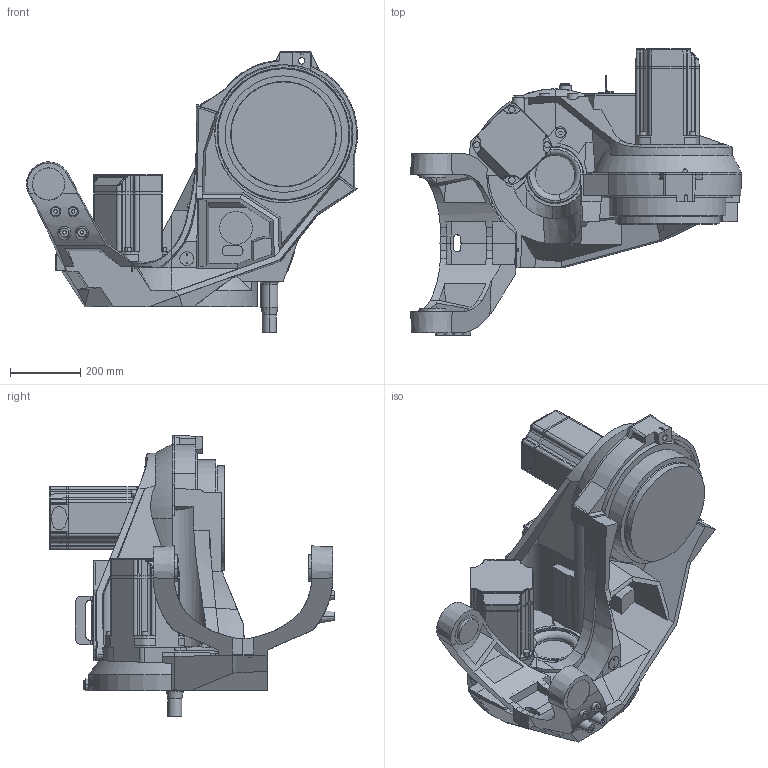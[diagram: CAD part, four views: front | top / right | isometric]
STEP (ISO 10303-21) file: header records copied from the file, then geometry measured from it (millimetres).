
FILE_DESCRIPTION (( 'STEP AP214' ), '1' );
FILE_NAME ('IRB6700-SW6_145-320_IRC5_rev06_LINK01_CAD.STEP', '2016-01-27T12:17:17', ( 'ABB' ), ( 'ABB' ), 'SwSTEP 2.0', 'SolidWorks 2014', '' );
FILE_SCHEMA (( 'AUTOMOTIVE_DESIGN' ));
Length unit declared in the file: millimetre
Products named in the file (1): IRB6700-SW6_145-320_IRC5_rev06_LINK01_CAD
Bounding box: 942.95 x 814.5 x 800.5 mm (x, y, z)
Volume: 70733161.3 mm3; surface area: 3101358.6 mm2
Topology: 1 solids, 1 shells, 1243 faces, 3274 edges, 2082 vertices
Faces by surface type: plane 600, cylinder 344, cone 160, bspline 106, torus 30, sphere 3
Entity records: 43073 total; most frequent: CARTESIAN_POINT 13475, ORIENTED_EDGE 6532, DIRECTION 5733, EDGE_CURVE 3266, VERTEX_POINT 2082, AXIS2_PLACEMENT_3D 2006, LINE 1721, VECTOR 1721
